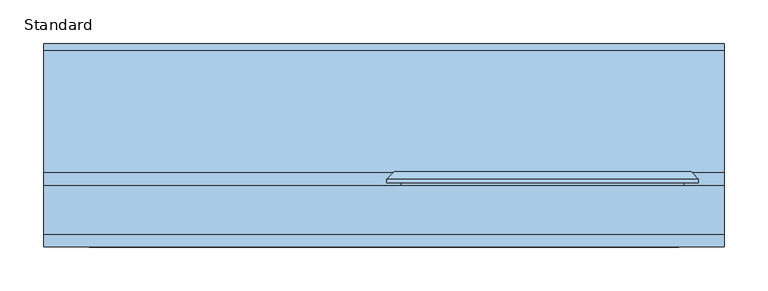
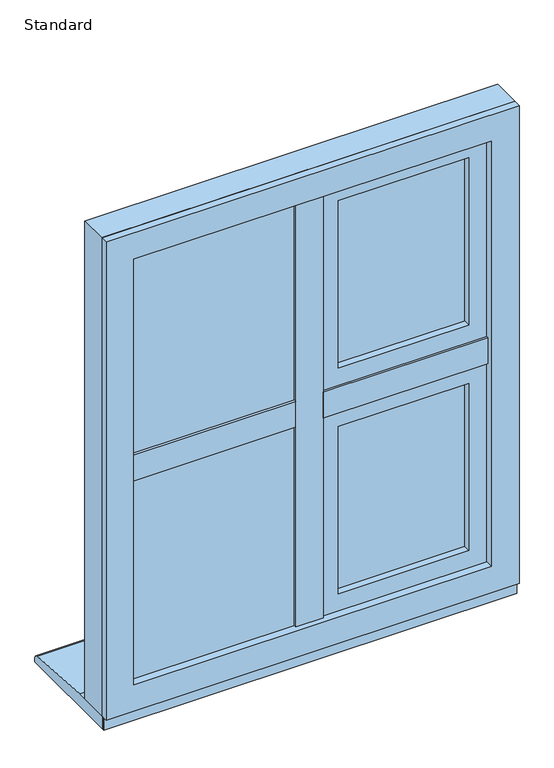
"""IFC4 building model written with IfcOpenShell, lengths in millimetres: window geometry, SMARTS_Alitherm600 : Standard."""

from ifc_helpers import new_model, si_unit, point, frame, frame_2d, origin, place, context, project, spatial, polyline, circle_curve, trimmed, segment, composite_curve, outline, extrude, faceted_brep, source, transform, mapped, element, save


def standard_c9fbf214(model_context):
    return source(origin(), model_context, "Body", "SolidModel", [
        extrude(outline(polyline([(-9.4, 102.8298432), (9.4, 102.8298432), (9.4, 47.2458572), (-9.4, 47.2458572), (-9.4, 102.8298432)])), frame((0.0, 0.0, 670.8979117), z_axis=(0.0, 0.0, 1.0), x_axis=(1.0, 0.0, 0.0)), (0.0, 0.0, 1.0), 883.2041766),
        extrude(outline(polyline([(-25.9020883, 47.2458572), (25.9020883, 47.2458572), (25.9020883, 43.2798432), (-25.9020883, 43.2798432), (-25.9020883, 47.2458572)])), frame((0.0, 0.0, 687.4), z_axis=(0.0, 0.0, 1.0), x_axis=(1.0, 0.0, 0.0)), (0.0, 0.0, 1.0), 850.2),
        extrude(outline(polyline([(-9.4979117, 102.8298432), (-9.4979117, 47.2458572), (-354.1020883, 47.2458572), (-354.1020883, 102.8298432), (-9.4979117, 102.8298432)])), frame((0.0, 0.0, 1103.1), z_axis=(0.0, 0.0, 1.0), x_axis=(1.0, 0.0, 0.0)), (0.0, 0.0, 1.0), 18.8),
        extrude(outline(polyline([(-26.0, 47.2458572), (-26.0, 43.2798432), (-337.6, 43.2798432), (-337.6, 47.2458572), (-26.0, 47.2458572)])), frame((0.0, 0.0, 1086.5979117), z_axis=(0.0, 0.0, 1.0), x_axis=(1.0, 0.0, 0.0)), (0.0, 0.0, 1.0), 51.8041766),
        extrude(outline(polyline([(354.1020883, 102.8298432), (354.1020883, 47.2458572), (9.4979117, 47.2458572), (9.4979117, 102.8298432), (354.1020883, 102.8298432)])), frame((0.0, 0.0, 1103.1), z_axis=(0.0, 0.0, 1.0), x_axis=(1.0, 0.0, 0.0)), (0.0, 0.0, 1.0), 18.8),
        extrude(outline(polyline([(337.6, 47.2458572), (337.6, 43.2798432), (26.0, 43.2798432), (26.0, 47.2458572), (337.6, 47.2458572)])), frame((0.0, 0.0, 1086.5979117), z_axis=(0.0, 0.0, 1.0), x_axis=(1.0, 0.0, 0.0)), (0.0, 0.0, 1.0), 51.8041766),
        extrude(outline(polyline([(-352.6, 77.7798432), (-11.0, 77.7798432), (-11.0, 73.7798432), (-352.6, 73.7798432), (-352.6, 77.7798432)])), frame((0.0, 0.0, 672.4), z_axis=(0.0, 0.0, 1.0), x_axis=(1.0, 0.0, 0.0)), (0.0, 0.0, 1.0), 429.1),
        extrude(outline(polyline([(-352.6, 57.7798432), (-11.0, 57.7798432), (-11.0, 53.7798432), (-352.6, 53.7798432), (-352.6, 57.7798432)])), frame((0.0, 0.0, 672.4), z_axis=(0.0, 0.0, 1.0), x_axis=(1.0, 0.0, 0.0)), (0.0, 0.0, 1.0), 429.1),
        extrude(outline(polyline([(1101.5, -352.6), (672.4, -352.6), (672.4, -11.0), (1101.5, -11.0), (1101.5, -352.6)]), holes=[polyline([(1091.5, -21.0), (682.4, -21.0), (682.4, -342.6), (1091.5, -342.6), (1091.5, -21.0)])]), frame((0.0, 57.7798432, 0.0), z_axis=(0.0, 1.0, 0.0), x_axis=(0.0, 0.0, 1.0)), (0.0, 0.0, 1.0), 16.0),
        faceted_brep([(-349.4160653, 102.7798432, 1098.3160653), (-337.2339746, 81.6798432, 1086.1339746), (-337.2339746, 81.6798432, 687.7660254), (-349.4160653, 102.7798432, 675.5839347), (-26.3660254, 81.6798432, 687.7660254), (-14.1839347, 102.7798432, 675.5839347), (-26.3660254, 81.6798432, 1086.1339746), (-14.1839347, 102.7798432, 1098.3160653), (-9.5, 81.6798432, 1103.0), (-9.5, 102.7798432, 1103.0), (-354.1, 102.7798432, 1103.0), (-354.1, 81.6798432, 1103.0), (-354.1, 102.7798432, 670.9), (-354.1, 81.6798432, 670.9), (-9.5, 102.7798432, 670.9), (-9.5, 81.6798432, 670.9)], [[[0, 1, 2, 3]], [[3, 2, 4, 5]], [[5, 4, 6, 7]], [[7, 6, 1, 0]], [[8, 9, 10, 11]], [[11, 10, 12, 13]], [[13, 12, 14, 15]], [[9, 14, 12, 10], [0, 3, 5, 7]], [[15, 14, 9, 8]], [[11, 13, 15, 8], [6, 4, 2, 1]]]),
        extrude(outline(polyline([(-352.6, 77.7798432), (-11.0, 77.7798432), (-11.0, 73.7798432), (-352.6, 73.7798432), (-352.6, 77.7798432)])), frame((0.0, 0.0, 1123.5), z_axis=(0.0, 0.0, 1.0), x_axis=(1.0, 0.0, 0.0)), (0.0, 0.0, 1.0), 429.1),
        extrude(outline(polyline([(-352.6, 57.7798432), (-11.0, 57.7798432), (-11.0, 53.7798432), (-352.6, 53.7798432), (-352.6, 57.7798432)])), frame((0.0, 0.0, 1123.5), z_axis=(0.0, 0.0, 1.0), x_axis=(1.0, 0.0, 0.0)), (0.0, 0.0, 1.0), 429.1),
        extrude(outline(polyline([(1552.6, -352.6), (1123.5, -352.6), (1123.5, -11.0), (1552.6, -11.0), (1552.6, -352.6)]), holes=[polyline([(1542.6, -21.0), (1133.5, -21.0), (1133.5, -342.6), (1542.6, -342.6), (1542.6, -21.0)])]), frame((0.0, 57.7798432, 0.0), z_axis=(0.0, 1.0, 0.0), x_axis=(0.0, 0.0, 1.0)), (0.0, 0.0, 1.0), 16.0),
        faceted_brep([(-349.4160653, 102.7798432, 1549.4160653), (-337.2339746, 81.6798432, 1537.2339746), (-337.2339746, 81.6798432, 1138.8660254), (-349.4160653, 102.7798432, 1126.6839347), (-26.3660254, 81.6798432, 1138.8660254), (-14.1839347, 102.7798432, 1126.6839347), (-26.3660254, 81.6798432, 1537.2339746), (-14.1839347, 102.7798432, 1549.4160653), (-9.5, 81.6798432, 1554.1), (-9.5, 102.7798432, 1554.1), (-354.1, 102.7798432, 1554.1), (-354.1, 81.6798432, 1554.1), (-354.1, 102.7798432, 1122.0), (-354.1, 81.6798432, 1122.0), (-9.5, 102.7798432, 1122.0), (-9.5, 81.6798432, 1122.0)], [[[0, 1, 2, 3]], [[3, 2, 4, 5]], [[5, 4, 6, 7]], [[7, 6, 1, 0]], [[8, 9, 10, 11]], [[11, 10, 12, 13]], [[13, 12, 14, 15]], [[9, 14, 12, 10], [0, 3, 5, 7]], [[15, 14, 9, 8]], [[11, 13, 15, 8], [6, 4, 2, 1]]]),
        extrude(outline(polyline([(1065.5, 47.0), (708.4, 47.0), (708.4, 316.6), (1065.5, 316.6), (1065.5, 47.0)]), holes=[polyline([(1055.5, 306.6), (718.4, 306.6), (718.4, 57.0), (1055.5, 57.0), (1055.5, 306.6)])]), frame((0.0, 72.3211351, 0.0), z_axis=(0.0, 1.0, 0.0), x_axis=(0.0, 0.0, 1.0)), (0.0, 0.0, 1.0), 16.0),
        extrude(outline(polyline([(47.0, 92.3211351), (316.6, 92.3211351), (316.6, 88.3211351), (47.0, 88.3211351), (47.0, 92.3211351)])), frame((0.0, 0.0, 708.4), z_axis=(0.0, 0.0, 1.0), x_axis=(1.0, 0.0, 0.0)), (0.0, 0.0, 1.0), 357.1),
        extrude(outline(polyline([(47.0, 72.3211351), (316.6, 72.3211351), (316.6, 68.3211351), (47.0, 68.3211351), (47.0, 72.3211351)])), frame((0.0, 0.0, 708.4), z_axis=(0.0, 0.0, 1.0), x_axis=(1.0, 0.0, 0.0)), (0.0, 0.0, 1.0), 357.1),
        faceted_brep([(316.9221147, 118.8818325, 1065.8221147), (304.740024, 97.7818325, 1053.640024), (58.859976, 97.7818325, 1053.640024), (46.6778853, 118.8818325, 1065.8221147), (321.6060494, 97.7818325, 1070.5060494), (321.6060494, 118.8818325, 1070.5060494), (41.9939506, 118.8818325, 1070.5060494), (41.9939506, 97.7818325, 1070.5060494), (58.859976, 97.7818325, 720.259976), (46.6778853, 118.8818325, 708.0778853), (41.9939506, 118.8818325, 703.3939506), (41.9939506, 97.7818325, 703.3939506), (304.740024, 97.7818325, 720.259976), (316.9221147, 118.8818325, 708.0778853), (321.6060494, 118.8818325, 703.3939506), (321.6060494, 97.7818325, 703.3939506)], [[[0, 1, 2, 3]], [[4, 5, 6, 7]], [[3, 2, 8, 9]], [[7, 6, 10, 11]], [[9, 8, 12, 13]], [[11, 10, 14, 15]], [[13, 12, 1, 0]], [[5, 14, 10, 6], [3, 9, 13, 0]], [[15, 14, 5, 4]], [[7, 11, 15, 4], [1, 12, 8, 2]]]),
        extrude(outline(polyline([(681.552908, 20.152908), (681.552908, 343.447092), (1092.347092, 343.447092), (1092.347092, 20.152908), (681.552908, 20.152908)]), holes=[polyline([(1054.0, 58.5), (1054.0, 305.1), (719.9, 305.1), (719.9, 58.5), (1054.0, 58.5)])]), frame((0.0, 50.2798432, 0.0), z_axis=(0.0, 1.0, 0.0), x_axis=(0.0, 0.0, 1.0)), (0.0, 0.0, 1.0), 13.0853156),
        faceted_brep([(41.9939506, 118.8818325, 1070.5060494), (41.9939506, 63.3651588, 1070.5060494), (41.9939506, 63.3651588, 703.3939506), (41.9939506, 118.8818325, 703.3939506), (321.6060494, 63.3651588, 703.3939506), (321.6060494, 118.8818325, 703.3939506), (321.6060494, 63.3651588, 1070.5060494), (321.6060494, 118.8818325, 1070.5060494), (3.2641012, 106.2818325, 1109.2358988), (3.2641012, 110.3519831, 1109.2358988), (3.2641012, 110.3519831, 664.6641012), (3.2641012, 106.2818325, 664.6641012), (360.3358988, 110.3519831, 664.6641012), (360.3358988, 106.2818325, 664.6641012), (360.3358988, 110.3519831, 1109.2358988), (360.3358988, 106.2818325, 1109.2358988), (19.8532343, 106.2818325, 1092.6467657), (343.7467657, 106.2818325, 1092.6467657), (343.7467657, 106.2818325, 681.2532343), (19.8532343, 106.2818325, 681.2532343), (11.7939506, 118.8818325, 1100.7060494), (351.8060494, 118.8818325, 1100.7060494), (351.8060494, 118.8818325, 673.1939506), (11.7939506, 118.8818325, 673.1939506), (19.8532343, 63.3651588, 1092.6467657), (19.8532343, 63.3651588, 681.2532343), (343.7467657, 63.3651588, 681.2532343), (343.7467657, 63.3651588, 1092.6467657)], [[[0, 1, 2, 3]], [[3, 2, 4, 5]], [[5, 4, 6, 7]], [[7, 6, 1, 0]], [[8, 9, 10, 11]], [[11, 10, 12, 13]], [[13, 12, 14, 15]], [[11, 13, 15, 8], [16, 17, 18, 19]], [[15, 14, 9, 8]], [[20, 21, 22, 23], [3, 5, 7, 0]], [[24, 16, 19, 25]], [[25, 19, 18, 26]], [[26, 18, 17, 27]], [[25, 26, 27, 24], [1, 6, 4, 2]], [[27, 17, 16, 24]], [[9, 20, 23, 10]], [[10, 23, 22, 12]], [[12, 22, 21, 14]], [[14, 21, 20, 9]]]),
        extrude(outline(polyline([(1590.0, 390.0), (1590.0, -390.0), (635.0, -390.0), (635.0, 390.0), (1590.0, 390.0)]), holes=[polyline([(670.85, 354.15), (670.85, -354.15), (1554.15, -354.15), (1554.15, 354.15), (670.85, 354.15)])]), frame((0.0, 47.2798427, 0.0), z_axis=(0.0, 1.0, 0.0), x_axis=(0.0, 0.0, 1.0)), (0.0, 0.0, 1.0), 55.5500006),
        extrude(outline(polyline([(1590.0, 390.0), (1590.0, -390.0), (635.0, -390.0), (635.0, 390.0), (1590.0, 390.0)]), holes=[polyline([(687.35, 337.65), (687.35, -337.65), (1537.65, -337.65), (1537.65, 337.65), (687.35, 337.65)])]), frame((0.0, 32.8298432, 0.0), z_axis=(0.0, 1.0, 0.0), x_axis=(0.0, 0.0, 1.0)), (0.0, 0.0, 1.0), 14.4499994),
        extrude(outline(polyline([(1516.6, 47.0), (1159.5, 47.0), (1159.5, 316.6), (1516.6, 316.6), (1516.6, 47.0)]), holes=[polyline([(1506.6, 306.6), (1169.5, 306.6), (1169.5, 57.0), (1506.6, 57.0), (1506.6, 306.6)])]), frame((0.0, 72.3211351, 0.0), z_axis=(0.0, 1.0, 0.0), x_axis=(0.0, 0.0, 1.0)), (0.0, 0.0, 1.0), 16.0),
        extrude(outline(polyline([(47.0, 92.3211351), (316.6, 92.3211351), (316.6, 88.3211351), (47.0, 88.3211351), (47.0, 92.3211351)])), frame((0.0, 0.0, 1159.5), z_axis=(0.0, 0.0, 1.0), x_axis=(1.0, 0.0, 0.0)), (0.0, 0.0, 1.0), 357.1),
        extrude(outline(polyline([(47.0, 72.3211351), (316.6, 72.3211351), (316.6, 68.3211351), (47.0, 68.3211351), (47.0, 72.3211351)])), frame((0.0, 0.0, 1159.5), z_axis=(0.0, 0.0, 1.0), x_axis=(1.0, 0.0, 0.0)), (0.0, 0.0, 1.0), 357.1),
        faceted_brep([(316.9221147, 118.8818325, 1516.9221147), (304.740024, 97.7818325, 1504.740024), (58.859976, 97.7818325, 1504.740024), (46.6778853, 118.8818325, 1516.9221147), (321.6060494, 97.7818325, 1521.6060494), (321.6060494, 118.8818325, 1521.6060494), (41.9939506, 118.8818325, 1521.6060494), (41.9939506, 97.7818325, 1521.6060494), (58.859976, 97.7818325, 1171.359976), (46.6778853, 118.8818325, 1159.1778853), (41.9939506, 118.8818325, 1154.4939506), (41.9939506, 97.7818325, 1154.4939506), (304.740024, 97.7818325, 1171.359976), (316.9221147, 118.8818325, 1159.1778853), (321.6060494, 118.8818325, 1154.4939506), (321.6060494, 97.7818325, 1154.4939506)], [[[0, 1, 2, 3]], [[4, 5, 6, 7]], [[3, 2, 8, 9]], [[7, 6, 10, 11]], [[9, 8, 12, 13]], [[11, 10, 14, 15]], [[13, 12, 1, 0]], [[5, 14, 10, 6], [3, 9, 13, 0]], [[15, 14, 5, 4]], [[7, 11, 15, 4], [1, 12, 8, 2]]]),
        extrude(outline(polyline([(1132.652908, 20.152908), (1132.652908, 343.447092), (1543.447092, 343.447092), (1543.447092, 20.152908), (1132.652908, 20.152908)]), holes=[polyline([(1505.1, 58.5), (1505.1, 305.1), (1171.0, 305.1), (1171.0, 58.5), (1505.1, 58.5)])]), frame((0.0, 50.2798432, 0.0), z_axis=(0.0, 1.0, 0.0), x_axis=(0.0, 0.0, 1.0)), (0.0, 0.0, 1.0), 13.0853156),
        faceted_brep([(41.9939506, 118.8818325, 1521.6060494), (41.9939506, 63.3651588, 1521.6060494), (41.9939506, 63.3651588, 1154.4939506), (41.9939506, 118.8818325, 1154.4939506), (321.6060494, 63.3651588, 1154.4939506), (321.6060494, 118.8818325, 1154.4939506), (321.6060494, 63.3651588, 1521.6060494), (321.6060494, 118.8818325, 1521.6060494), (3.2641012, 106.2818325, 1560.3358988), (3.2641012, 110.3519831, 1560.3358988), (3.2641012, 110.3519831, 1115.7641012), (3.2641012, 106.2818325, 1115.7641012), (360.3358988, 110.3519831, 1115.7641012), (360.3358988, 106.2818325, 1115.7641012), (360.3358988, 110.3519831, 1560.3358988), (360.3358988, 106.2818325, 1560.3358988), (19.8532343, 106.2818325, 1543.7467657), (343.7467657, 106.2818325, 1543.7467657), (343.7467657, 106.2818325, 1132.3532343), (19.8532343, 106.2818325, 1132.3532343), (11.7939506, 118.8818325, 1551.8060494), (351.8060494, 118.8818325, 1551.8060494), (351.8060494, 118.8818325, 1124.2939506), (11.7939506, 118.8818325, 1124.2939506), (19.8532343, 63.3651588, 1543.7467657), (19.8532343, 63.3651588, 1132.3532343), (343.7467657, 63.3651588, 1132.3532343), (343.7467657, 63.3651588, 1543.7467657)], [[[0, 1, 2, 3]], [[3, 2, 4, 5]], [[5, 4, 6, 7]], [[7, 6, 1, 0]], [[8, 9, 10, 11]], [[11, 10, 12, 13]], [[13, 12, 14, 15]], [[11, 13, 15, 8], [16, 17, 18, 19]], [[15, 14, 9, 8]], [[20, 21, 22, 23], [3, 5, 7, 0]], [[24, 16, 19, 25]], [[25, 19, 18, 26]], [[26, 18, 17, 27]], [[25, 26, 27, 24], [1, 6, 4, 2]], [[27, 17, 16, 24]], [[9, 20, 23, 10]], [[10, 23, 22, 12]], [[12, 22, 21, 14]], [[14, 21, 20, 9]]]),
        extrude(outline(polyline([(390.0, 43.2798432), (390.0, 40.7798432), (-390.0, 40.7798432), (-390.0, 43.2798432), (390.0, 43.2798432)])), frame((0.0, 0.0, 610.0), z_axis=(0.0, 0.0, 1.0), x_axis=(1.0, 0.0, 0.0)), (0.0, 0.0, 1.0), 31.0),
        extrude(outline(composite_curve([segment(polyline([(265.7798432, 610.0), (43.2798432, 610.0), (43.2798432, 635.0), (118.7798432, 635.0), (258.4770891, 625.9276664)]), True, "CONTINUOUS"), segment(trimmed(circle_curve(frame_2d((257.7798432, 617.9581088)), 8.0), [point((258.4770891, 625.9276664))], [point((265.7798432, 617.9581088))], False, "CARTESIAN"), True, "CONTINUOUS"), segment(polyline([(265.7798432, 617.9581088), (265.7798432, 610.0)]), True, "CONTINUOUS")], self_intersect=False)), frame((-390.0, 0.0, 0.0), z_axis=(1.0, 0.0, 0.0), x_axis=(0.0, 1.0, 0.0)), (0.0, 0.0, 1.0), 780.0),
    ])


if __name__ == "__main__":
    model = new_model("IFC4")
    model_context = context("Model", 3, world=origin())
    ifc_project = project(units=[si_unit("LENGTHUNIT", "METRE", prefix="MILLI")], contexts=[model_context])
    site = spatial("IfcSite", under=ifc_project)
    building = spatial("IfcBuilding", under=site)
    placement = place(None, origin())
    standard_shape = standard_c9fbf214(model_context)
    element("IfcWindow", 1, ObjectType="SMARTS_Alitherm600 : Standard", at=placement, inside=building, context=model_context, shape_type="MappedRepresentation", body=[
        mapped(standard_shape, transform((0.0, 0.0, 0.0), x_axis=(1.0, 0.0, 0.0), y_axis=(0.0, 1.0, 0.0), z_axis=(0.0, 0.0, 1.0))),
    ])
    save(model, "model.ifc")
